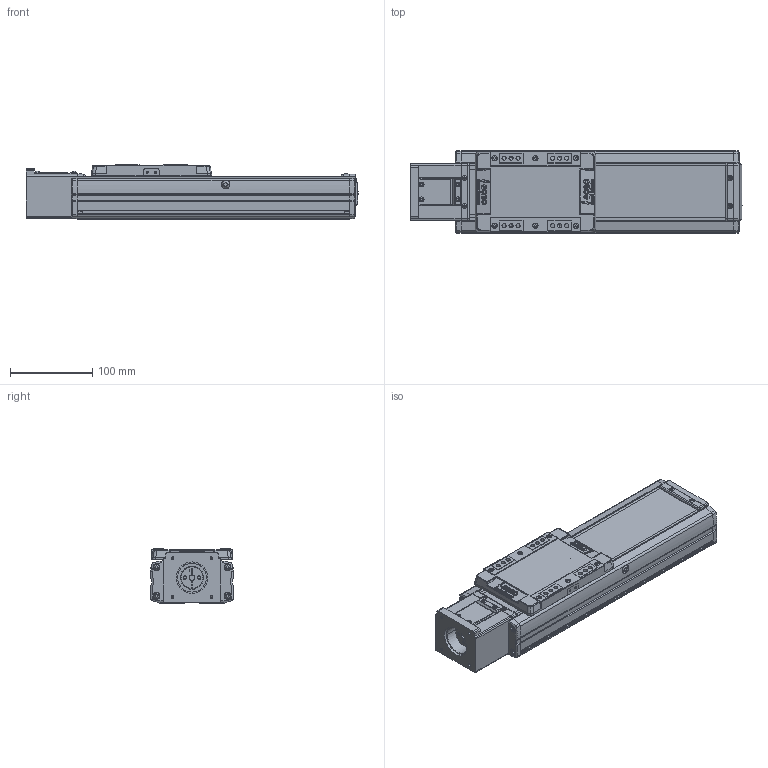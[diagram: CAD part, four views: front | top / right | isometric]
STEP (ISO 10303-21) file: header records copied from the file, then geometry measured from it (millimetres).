
FILE_DESCRIPTION(('STEP AP214'),'1');
FILE_NAME('Z:/Web/3D/SAN100/SAN100 양산용 (STEP)/SAN100ㅁㅁ-150S.stp','2013-04-24T07:14:56',(' '),(' '),'Spatial InterOp 3D',' ',' ');
FILE_SCHEMA(('automotive_design'));
Length unit declared in the file: millimetre
Products named in the file (38): SUS COVER; SFX-SAN100; RRCV-SAN100; 스크루 : Round - M4.0 x 10.0; M3.0 x 6.0; 스크루 : Round - M3.0 x 6.0; FRBL-SAN100; SLBL-SAN100; SLCV-SAN100; 스크루 : Countersunk - M3.0 x 6.0; BASE; 스크루 : Round - M5.0 x 6.0; MTHZ-SAN100-S56A; SDA26C-8-6.35; SSFX-SAN65; CPLCV-SAN65; FRCV-SAN100
Bounding box: 402.5 x 100 x 66 mm (x, y, z)
Volume: 1251406.9 mm3; surface area: 336219.2 mm2
Topology: 38 solids, 39 shells, 2314 faces, 6100 edges, 3949 vertices
Faces by surface type: plane 1113, cylinder 887, cone 201, sphere 48, torus 45, bspline 20
Entity records: 92714 total; most frequent: CARTESIAN_POINT 14591, DIRECTION 12900, ORIENTED_EDGE 12052, EDGE_CURVE 6026, AXIS2_PLACEMENT_3D 4701, VERTEX_POINT 3949, LINE 3498, VECTOR 3498
